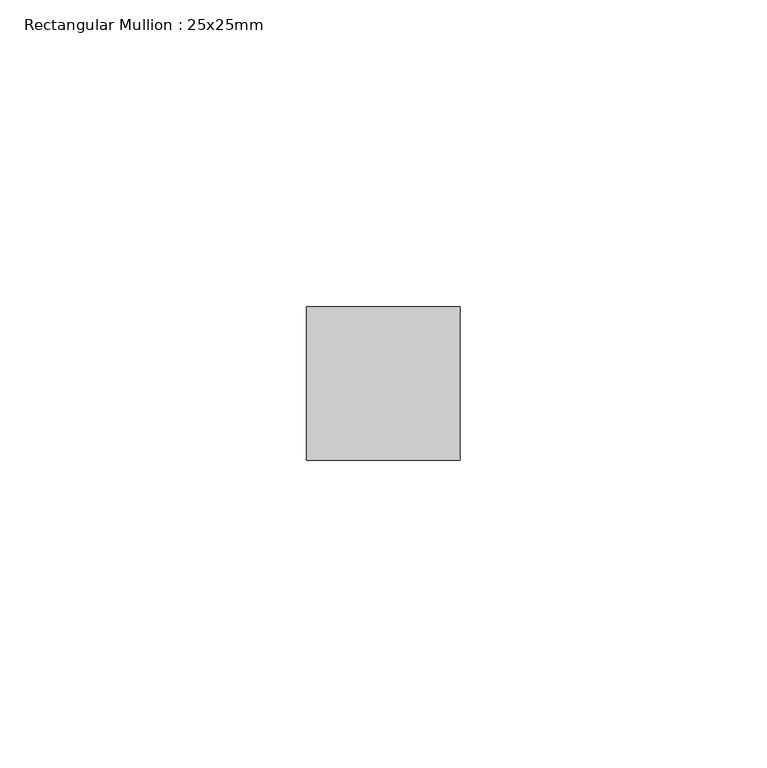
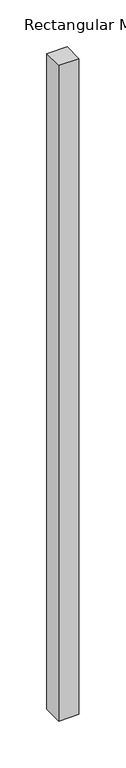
"""IFC4 building model written with IfcOpenShell, lengths in millimetres: member geometry, Rectangular Mullion : 25x25mm."""

from ifc_helpers import new_model, si_unit, frame, origin, place, context, project, spatial, polyline, outline, extrude, source, transform, mapped, element, save


def rectangular_mullion_25x25mm_ef6955a9(model_context):
    return source(origin(), model_context, "Body", "SweptSolid", [
        extrude(outline(polyline([(0.0, 0.5), (0.0, -24.5), (-25.0, -24.5), (-25.0, 0.5), (0.0, 0.5)])), frame((0.0, 0.0, -853.1249998), z_axis=(0.0, 0.0, 1.0), x_axis=(1.0, 0.0, 0.0)), (0.0, 0.0, 1.0), 853.1249998),
    ])


if __name__ == "__main__":
    model = new_model("IFC4")
    model_context = context("Model", 3, world=origin())
    ifc_project = project(units=[si_unit("LENGTHUNIT", "METRE", prefix="MILLI")], contexts=[model_context])
    site = spatial("IfcSite", under=ifc_project)
    building = spatial("IfcBuilding", under=site)
    placement = place(None, origin())
    rectangular_mullion_25x25mm_shape = rectangular_mullion_25x25mm_ef6955a9(model_context)
    element("IfcMember", 1, ObjectType="Rectangular Mullion : 25x25mm", at=placement, inside=building, context=model_context, shape_type="MappedRepresentation", body=[
        mapped(rectangular_mullion_25x25mm_shape, transform((0.0, 0.0, 0.0), x_axis=(1.0, 0.0, 0.0), y_axis=(0.0, 1.0, 0.0), z_axis=(0.0, 0.0, 1.0))),
    ])
    save(model, "model.ifc")
